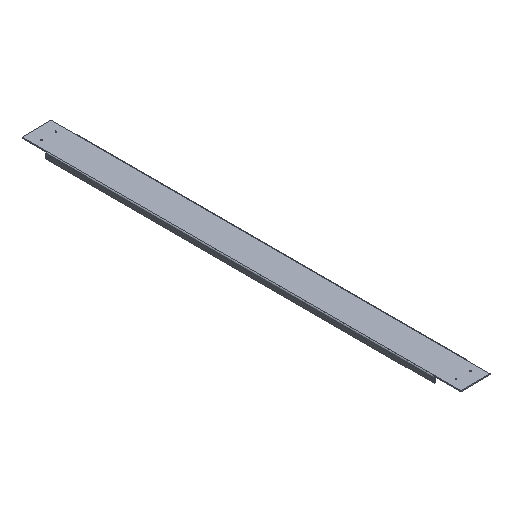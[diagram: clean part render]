
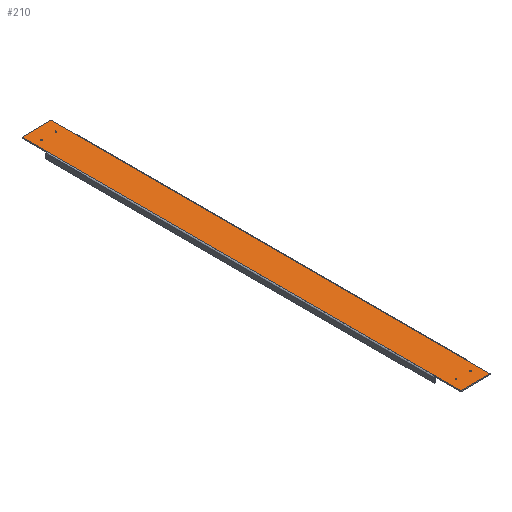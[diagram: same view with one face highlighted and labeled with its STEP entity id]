
A CAD part, isometric view. The second image highlights one B-rep face of the part: STEP entity #210.
In plain terms, the highlighted planar face has unit normal (0, 0, 1).
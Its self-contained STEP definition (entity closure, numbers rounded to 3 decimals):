
#59=CARTESIAN_POINT('',(1580.,193.5,147.5));
#60=DIRECTION('',(-0.,-0.,1.));
#61=DIRECTION('',(0.,1.,0.));
#62=AXIS2_PLACEMENT_3D('',#59,#60,#61);
#63=PLANE('',#62);
#64=CARTESIAN_POINT('',(1590.,230.9,147.5));
#65=VERTEX_POINT('',#64);
#66=CARTESIAN_POINT('',(1590.,233.5,147.5));
#67=DIRECTION('',(-0.,-0.,1.));
#68=DIRECTION('',(0.,-1.,-0.));
#69=AXIS2_PLACEMENT_3D('',#66,#67,#68);
#70=CIRCLE('',#69,2.6);
#71=EDGE_CURVE('',#65,#65,#70,.T.);
#72=ORIENTED_EDGE('',*,*,#71,.F.);
#73=EDGE_LOOP('',(#72));
#74=FACE_BOUND('',#73,.T.);
#75=CARTESIAN_POINT('',(1530.,230.9,147.5));
#76=VERTEX_POINT('',#75);
#77=CARTESIAN_POINT('',(1530.,233.5,147.5));
#78=DIRECTION('',(-0.,-0.,1.));
#79=DIRECTION('',(0.,-1.,-0.));
#80=AXIS2_PLACEMENT_3D('',#77,#78,#79);
#81=CIRCLE('',#80,2.6);
#82=EDGE_CURVE('',#76,#76,#81,.T.);
#83=ORIENTED_EDGE('',*,*,#82,.F.);
#84=EDGE_LOOP('',(#83));
#85=FACE_BOUND('',#84,.T.);
#86=CARTESIAN_POINT('',(1530.,1930.9,147.5));
#87=VERTEX_POINT('',#86);
#88=CARTESIAN_POINT('',(1530.,1933.5,147.5));
#89=DIRECTION('',(-0.,-0.,1.));
#90=DIRECTION('',(0.,-1.,-0.));
#91=AXIS2_PLACEMENT_3D('',#88,#89,#90);
#92=CIRCLE('',#91,2.6);
#93=EDGE_CURVE('',#87,#87,#92,.T.);
#94=ORIENTED_EDGE('',*,*,#93,.F.);
#95=EDGE_LOOP('',(#94));
#96=FACE_BOUND('',#95,.T.);
#97=CARTESIAN_POINT('',(1590.,1930.9,147.5));
#98=VERTEX_POINT('',#97);
#99=CARTESIAN_POINT('',(1590.,1933.5,147.5));
#100=DIRECTION('',(-0.,-0.,1.));
#101=DIRECTION('',(0.,-1.,-0.));
#102=AXIS2_PLACEMENT_3D('',#99,#100,#101);
#103=CIRCLE('',#102,2.6);
#104=EDGE_CURVE('',#98,#98,#103,.T.);
#105=ORIENTED_EDGE('',*,*,#104,.F.);
#106=EDGE_LOOP('',(#105));
#107=FACE_BOUND('',#106,.T.);
#108=CARTESIAN_POINT('',(1500.,1879.5,147.5));
#109=VERTEX_POINT('',#108);
#110=CARTESIAN_POINT('',(1500.,1982.5,147.5));
#111=VERTEX_POINT('',#110);
#112=CARTESIAN_POINT('',(1500.,1879.5,147.5));
#113=DIRECTION('',(0.,1.,0.));
#114=VECTOR('',#113,103.);
#115=LINE('',#112,#114);
#116=EDGE_CURVE('',#109,#111,#115,.T.);
#117=ORIENTED_EDGE('',*,*,#116,.F.);
#118=CARTESIAN_POINT('',(1500.,287.5,147.5));
#119=VERTEX_POINT('',#118);
#120=CARTESIAN_POINT('',(1500.,1879.5,147.5));
#121=DIRECTION('',(-0.,-1.,-0.));
#122=VECTOR('',#121,1592.);
#123=LINE('',#120,#122);
#124=EDGE_CURVE('',#109,#119,#123,.T.);
#125=ORIENTED_EDGE('',*,*,#124,.T.);
#126=CARTESIAN_POINT('',(1500.,184.5,147.5));
#127=VERTEX_POINT('',#126);
#128=CARTESIAN_POINT('',(1500.,287.5,147.5));
#129=DIRECTION('',(0.,-1.,-0.));
#130=VECTOR('',#129,103.);
#131=LINE('',#128,#130);
#132=EDGE_CURVE('',#119,#127,#131,.T.);
#133=ORIENTED_EDGE('',*,*,#132,.T.);
#134=CARTESIAN_POINT('',(1501.,183.5,147.5));
#135=VERTEX_POINT('',#134);
#136=CARTESIAN_POINT('',(1501.,184.5,147.5));
#137=DIRECTION('',(-0.,-0.,1.));
#138=DIRECTION('',(0.,-1.,-0.));
#139=AXIS2_PLACEMENT_3D('',#136,#137,#138);
#140=CIRCLE('',#139,1.);
#141=EDGE_CURVE('',#127,#135,#140,.T.);
#142=ORIENTED_EDGE('',*,*,#141,.T.);
#143=CARTESIAN_POINT('',(1619.,183.5,147.5));
#144=VERTEX_POINT('',#143);
#145=CARTESIAN_POINT('',(1619.,183.5,147.5));
#146=DIRECTION('',(-1.,0.,0.));
#147=VECTOR('',#146,118.);
#148=LINE('',#145,#147);
#149=EDGE_CURVE('',#144,#135,#148,.T.);
#150=ORIENTED_EDGE('',*,*,#149,.F.);
#151=CARTESIAN_POINT('',(1620.,184.5,147.5));
#152=VERTEX_POINT('',#151);
#153=CARTESIAN_POINT('',(1619.,184.5,147.5));
#154=DIRECTION('',(-0.,-0.,1.));
#155=DIRECTION('',(0.,-1.,-0.));
#156=AXIS2_PLACEMENT_3D('',#153,#154,#155);
#157=CIRCLE('',#156,1.);
#158=EDGE_CURVE('',#144,#152,#157,.T.);
#159=ORIENTED_EDGE('',*,*,#158,.T.);
#160=CARTESIAN_POINT('',(1620.,287.5,147.5));
#161=VERTEX_POINT('',#160);
#162=CARTESIAN_POINT('',(1620.,287.5,147.5));
#163=DIRECTION('',(0.,-1.,-0.));
#164=VECTOR('',#163,103.);
#165=LINE('',#162,#164);
#166=EDGE_CURVE('',#161,#152,#165,.T.);
#167=ORIENTED_EDGE('',*,*,#166,.F.);
#168=CARTESIAN_POINT('',(1620.,1879.5,147.5));
#169=VERTEX_POINT('',#168);
#170=CARTESIAN_POINT('',(1620.,287.5,147.5));
#171=DIRECTION('',(0.,1.,0.));
#172=VECTOR('',#171,1592.);
#173=LINE('',#170,#172);
#174=EDGE_CURVE('',#161,#169,#173,.T.);
#175=ORIENTED_EDGE('',*,*,#174,.T.);
#176=CARTESIAN_POINT('',(1620.,1982.5,147.5));
#177=VERTEX_POINT('',#176);
#178=CARTESIAN_POINT('',(1620.,1879.5,147.5));
#179=DIRECTION('',(0.,1.,0.));
#180=VECTOR('',#179,103.);
#181=LINE('',#178,#180);
#182=EDGE_CURVE('',#169,#177,#181,.T.);
#183=ORIENTED_EDGE('',*,*,#182,.T.);
#184=CARTESIAN_POINT('',(1619.,1983.5,147.5));
#185=VERTEX_POINT('',#184);
#186=CARTESIAN_POINT('',(1619.,1982.5,147.5));
#187=DIRECTION('',(-0.,-0.,1.));
#188=DIRECTION('',(0.,-1.,-0.));
#189=AXIS2_PLACEMENT_3D('',#186,#187,#188);
#190=CIRCLE('',#189,1.);
#191=EDGE_CURVE('',#177,#185,#190,.T.);
#192=ORIENTED_EDGE('',*,*,#191,.T.);
#193=CARTESIAN_POINT('',(1501.,1983.5,147.5));
#194=VERTEX_POINT('',#193);
#195=CARTESIAN_POINT('',(1619.,1983.5,147.5));
#196=DIRECTION('',(-1.,0.,0.));
#197=VECTOR('',#196,118.);
#198=LINE('',#195,#197);
#199=EDGE_CURVE('',#185,#194,#198,.T.);
#200=ORIENTED_EDGE('',*,*,#199,.T.);
#201=CARTESIAN_POINT('',(1501.,1982.5,147.5));
#202=DIRECTION('',(-0.,-0.,1.));
#203=DIRECTION('',(0.,-1.,-0.));
#204=AXIS2_PLACEMENT_3D('',#201,#202,#203);
#205=CIRCLE('',#204,1.);
#206=EDGE_CURVE('',#194,#111,#205,.T.);
#207=ORIENTED_EDGE('',*,*,#206,.T.);
#208=EDGE_LOOP('',(#117,#125,#133,#142,#150,#159,#167,#175,#183,#192,#200,#207));
#209=FACE_BOUND('',#208,.T.);
#210=ADVANCED_FACE('',(#74,#85,#96,#107,#209),#63,.T.);
